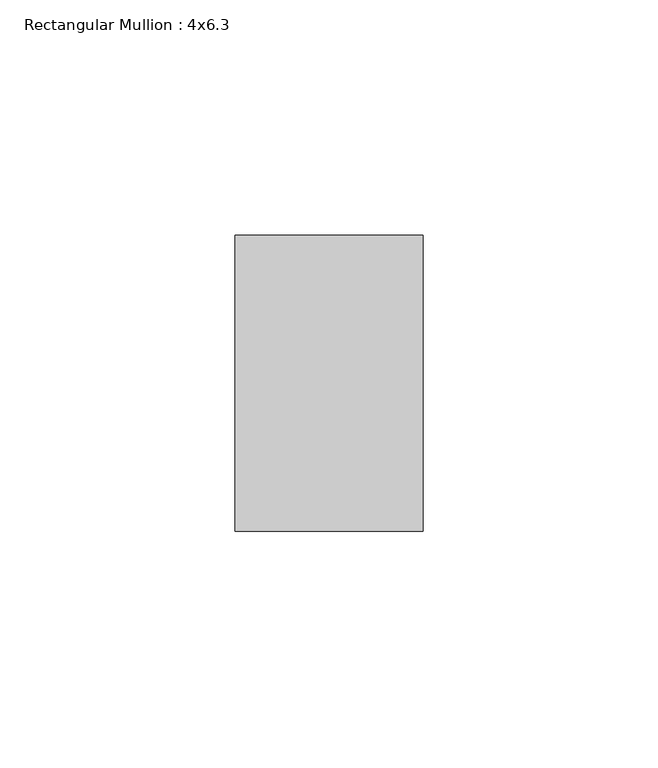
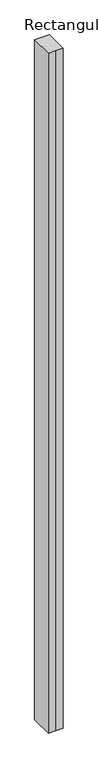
"""IFC4 building model written with IfcOpenShell, lengths in millimetres: member geometry, Rectangular Mullion : 4x6.3."""

from ifc_helpers import new_model, si_unit, frame, origin, place, context, project, spatial, polyline, outline, extrude, source, transform, mapped, element, save


def rectangular_mullion_4x6_3_8573cc38(model_context):
    return source(origin(), model_context, "Body", "SweptSolid", [
        extrude(outline(polyline([(-20.0, 20.0), (-20.0, 83.0), (20.0, 83.0), (20.0, 20.0), (0.0, 20.0), (-20.0, 20.0)])), frame((0.0, 0.0, -1923.1712767), z_axis=(0.0, 0.0, 1.0), x_axis=(1.0, 0.0, 0.0)), (0.0, 0.0, 1.0), 1923.1712767),
    ])


if __name__ == "__main__":
    model = new_model("IFC4")
    model_context = context("Model", 3, world=origin())
    ifc_project = project(units=[si_unit("LENGTHUNIT", "METRE", prefix="MILLI")], contexts=[model_context])
    site = spatial("IfcSite", under=ifc_project)
    building = spatial("IfcBuilding", under=site)
    placement = place(None, origin())
    rectangular_mullion_4x6_3_shape = rectangular_mullion_4x6_3_8573cc38(model_context)
    element("IfcMember", 1, ObjectType="Rectangular Mullion : 4x6.3", at=placement, inside=building, context=model_context, shape_type="MappedRepresentation", body=[
        mapped(rectangular_mullion_4x6_3_shape, transform((0.0, 0.0, 0.0), x_axis=(1.0, 0.0, 0.0), y_axis=(0.0, 1.0, 0.0), z_axis=(0.0, 0.0, 1.0))),
    ])
    save(model, "model.ifc")
